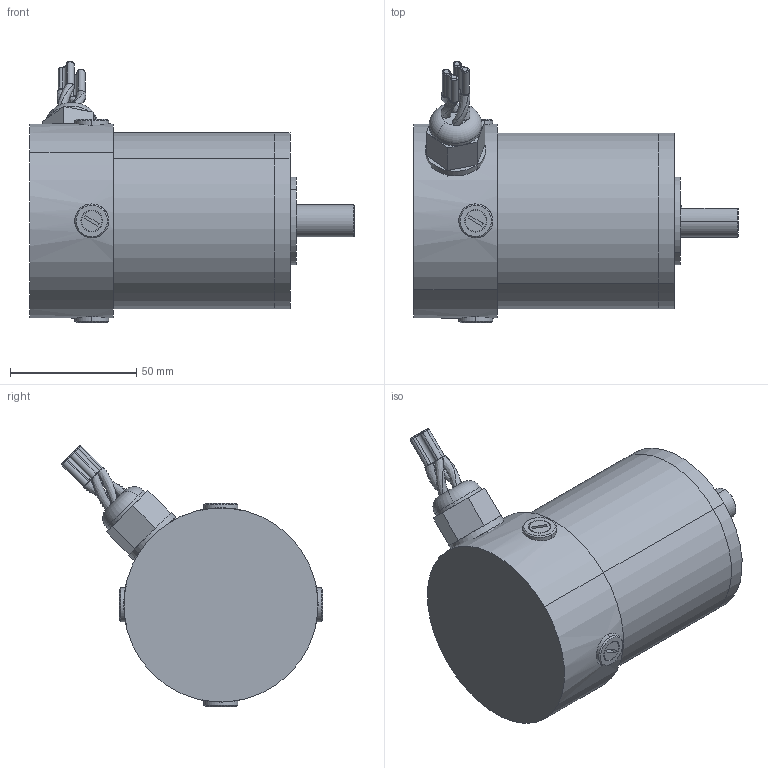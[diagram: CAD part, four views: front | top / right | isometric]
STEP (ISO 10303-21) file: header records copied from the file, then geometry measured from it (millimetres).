
FILE_DESCRIPTION (( 'STEP AP203' ), '1' );
FILE_NAME ('s27411a.step', '2018-12-07T18:51:45', ( '' ), ( '' ), 'SwSTEP 2.0', 'SolidWorks 2017', '' );
FILE_SCHEMA (( 'CONFIG_CONTROL_DESIGN' ));
Length unit declared in the file: inch
Products named in the file (1): s27411a
Bounding box: 128.52 x 103.5 x 103.5 mm (x, y, z)
Volume: 439740.2 mm3; surface area: 68581.4 mm2
Topology: 12 solids, 12 shells, 325 faces, 726 edges, 437 vertices
Faces by surface type: plane 152, cylinder 107, torus 31, cone 19, bspline 8, sphere 8
Entity records: 10001 total; most frequent: CARTESIAN_POINT 2548, DIRECTION 1703, ORIENTED_EDGE 1436, EDGE_CURVE 718, AXIS2_PLACEMENT_3D 711, VERTEX_POINT 437, CIRCLE 393, EDGE_LOOP 363
